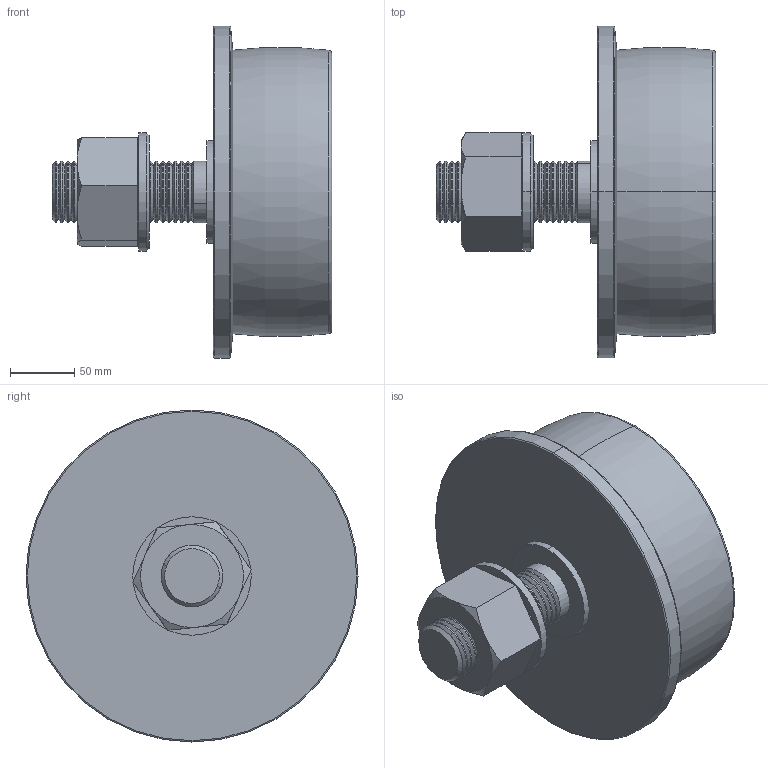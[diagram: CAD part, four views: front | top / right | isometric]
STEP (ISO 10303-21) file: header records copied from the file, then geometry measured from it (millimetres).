
FILE_DESCRIPTION (( 'STEP AP203' ), '1' );
FILE_NAME ('BTSF225X77M48.STEP', '2019-11-08T04:58:32', ( '' ), ( '' ), 'SwSTEP 2.0', 'SolidWorks 2013', '' );
FILE_SCHEMA (( 'CONFIG_CONTROL_DESIGN' ));
Length unit declared in the file: millimetre
Products named in the file (1): BTSF225X77M48
Bounding box: 217.3 x 258 x 258 mm (x, y, z)
Volume: 3801594.4 mm3; surface area: 448334.6 mm2
Topology: 9 solids, 9 shells, 535 faces, 2002 edges, 1328 vertices
Faces by surface type: torus 154, cylinder 132, cone 110, sphere 84, plane 55
Entity records: 23685 total; most frequent: CARTESIAN_POINT 8490, ORIENTED_EDGE 3500, DIRECTION 3064, EDGE_CURVE 1750, AXIS2_PLACEMENT_3D 1390, VERTEX_POINT 1160, CIRCLE 854, B_SPLINE_CURVE_WITH_KNOTS 612
